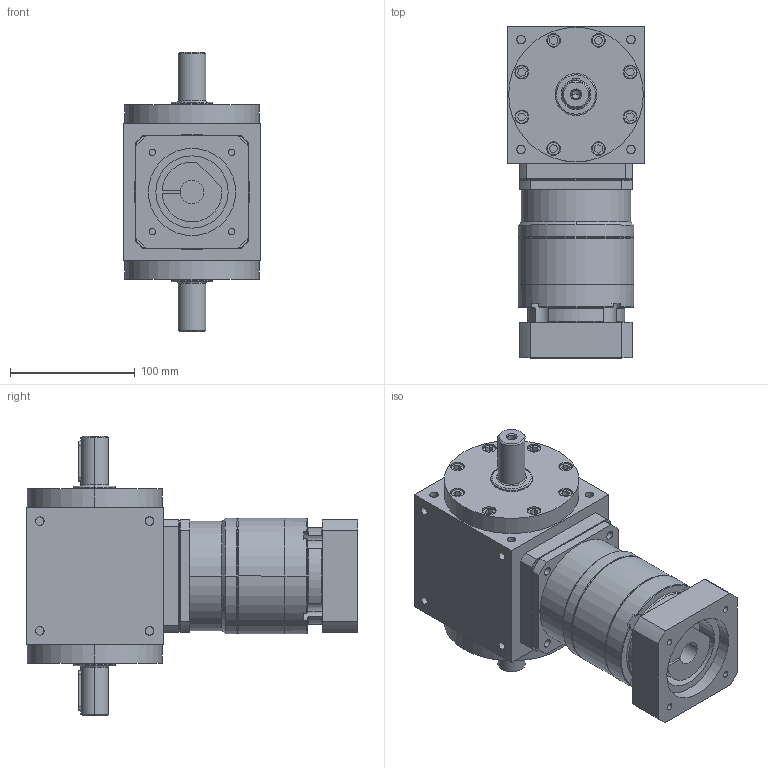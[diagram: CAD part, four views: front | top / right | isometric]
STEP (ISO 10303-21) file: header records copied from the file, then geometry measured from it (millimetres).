
FILE_DESCRIPTION (( 'STEP AP203' ), '1' );
FILE_NAME ('AT110-FL-L2 19-70-90-M6.STEP', '2024-12-20T07:12:43', ( '' ), ( '' ), 'SwSTEP 2.0', 'SolidWorks 2021', '' );
FILE_SCHEMA (( 'CONFIG_CONTROL_DESIGN' ));
Length unit declared in the file: millimetre
Products named in the file (3): AT110-FL; AT110-FL-L2 19-70-90-M6; VRB-090-L2-S2-P1 19-70-90-M6
Assembly tree (2 placements, depth 2):
  AT110-FL-L2 19-70-90-M6
    AT110-FL
    VRB-090-L2-S2-P1 19-70-90-M6
Bounding box: 110 x 266 x 224 mm (x, y, z)
Volume: 2693683.1 mm3; surface area: 191381.3 mm2
Topology: 2 solids, 2 shells, 546 faces, 1319 edges, 842 vertices
Faces by surface type: cylinder 237, plane 234, cone 61, bspline 14
Entity records: 17175 total; most frequent: CARTESIAN_POINT 4161, DIRECTION 2692, ORIENTED_EDGE 2626, EDGE_CURVE 1313, AXIS2_PLACEMENT_3D 1017, VERTEX_POINT 842, LINE 658, VECTOR 658
